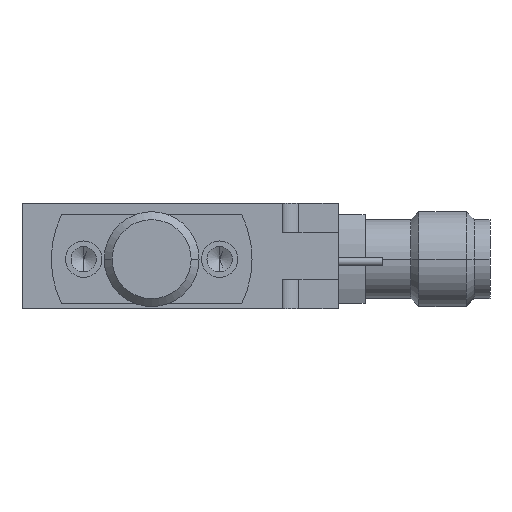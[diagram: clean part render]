
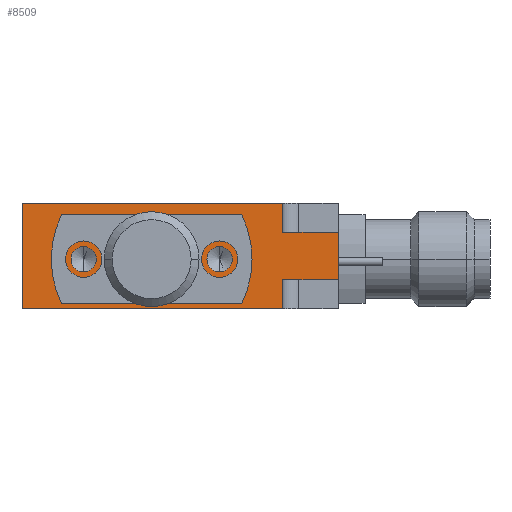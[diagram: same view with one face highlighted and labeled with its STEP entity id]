
A CAD part, left-side view. The second image highlights one B-rep face of the part: STEP entity #8509.
In plain terms, the highlighted planar face has unit normal (-1, 0, 0).
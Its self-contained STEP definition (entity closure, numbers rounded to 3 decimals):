
#60 = VERTEX_POINT ( 'NONE', #3979 ) ;
#96 = EDGE_CURVE ( 'NONE', #1969, #4391, #8861, .T. ) ;
#405 = DIRECTION ( 'NONE',  ( 0., 0., 1. ) ) ;
#490 = CARTESIAN_POINT ( 'NONE',  ( 0., -16.5, -1.85 ) ) ;
#645 = DIRECTION ( 'NONE',  ( -1., 0., 0. ) ) ;
#774 = DIRECTION ( 'NONE',  ( -1., 0., 0. ) ) ;
#792 = EDGE_CURVE ( 'NONE', #10537, #5094, #4758, .T. ) ;
#837 = DIRECTION ( 'NONE',  ( 0., 0., 1. ) ) ;
#908 = CARTESIAN_POINT ( 'NONE',  ( 0., 0., 0. ) ) ;
#951 = AXIS2_PLACEMENT_3D ( 'NONE', #11065, #774, #12374 ) ;
#963 = CARTESIAN_POINT ( 'NONE',  ( 0., 0., -6.7 ) ) ;
#988 = LINE ( 'NONE', #8053, #3393 ) ;
#1002 = DIRECTION ( 'NONE',  ( 0., -1., 0. ) ) ;
#1412 = CARTESIAN_POINT ( 'NONE',  ( 0., -8.2, -3.55 ) ) ;
#1438 = DIRECTION ( 'NONE',  ( 0., 0., -1. ) ) ;
#1552 = CARTESIAN_POINT ( 'NONE',  ( 0., -20., -4.85 ) ) ;
#1664 = DIRECTION ( 'NONE',  ( -1., 0., 0. ) ) ;
#1699 = VERTEX_POINT ( 'NONE', #9413 ) ;
#1776 = ORIENTED_EDGE ( 'NONE', *, *, #4135, .F. ) ;
#1969 = VERTEX_POINT ( 'NONE', #10610 ) ;
#2231 = CARTESIAN_POINT ( 'NONE',  ( 0., -16.5, -1.85 ) ) ;
#2382 = EDGE_CURVE ( 'NONE', #9850, #3500, #7077, .T. ) ;
#2602 = LINE ( 'NONE', #10646, #4905 ) ;
#2673 = DIRECTION ( 'NONE',  ( 0., -1., 0. ) ) ;
#2881 = CARTESIAN_POINT ( 'NONE',  ( 0., 0., 0. ) ) ;
#3393 = VECTOR ( 'NONE', #12720, 1000. ) ;
#3500 = VERTEX_POINT ( 'NONE', #9839 ) ;
#3532 = ORIENTED_EDGE ( 'NONE', *, *, #12215, .F. ) ;
#3553 = ORIENTED_EDGE ( 'NONE', *, *, #2382, .F. ) ;
#3625 = VECTOR ( 'NONE', #405, 1000. ) ;
#3729 = ORIENTED_EDGE ( 'NONE', *, *, #12885, .F. ) ;
#3795 = ORIENTED_EDGE ( 'NONE', *, *, #10452, .F. ) ;
#3979 = CARTESIAN_POINT ( 'NONE',  ( 0., -12.5, -2.75 ) ) ;
#4100 = AXIS2_PLACEMENT_3D ( 'NONE', #14816, #8081, #13820 ) ;
#4135 = EDGE_CURVE ( 'NONE', #3500, #9850, #11459, .T. ) ;
#4330 = CARTESIAN_POINT ( 'NONE',  ( 0., -12.5, -3.55 ) ) ;
#4341 = FACE_BOUND ( 'NONE', #5137, .T. ) ;
#4369 = EDGE_CURVE ( 'NONE', #10434, #1699, #7289, .T. ) ;
#4372 = VERTEX_POINT ( 'NONE', #2881 ) ;
#4391 = VERTEX_POINT ( 'NONE', #8623 ) ;
#4621 = ORIENTED_EDGE ( 'NONE', *, *, #13307, .F. ) ;
#4667 = ORIENTED_EDGE ( 'NONE', *, *, #792, .T. ) ;
#4750 = CARTESIAN_POINT ( 'NONE',  ( 0., -16.5, -4.85 ) ) ;
#4758 = LINE ( 'NONE', #11865, #8069 ) ;
#4905 = VECTOR ( 'NONE', #1438, 1000. ) ;
#5094 = VERTEX_POINT ( 'NONE', #9621 ) ;
#5137 = EDGE_LOOP ( 'NONE', ( #12626, #3795 ) ) ;
#5202 = FACE_BOUND ( 'NONE', #8734, .T. ) ;
#5206 = DIRECTION ( 'NONE',  ( 0., -1., 0. ) ) ;
#5496 = LINE ( 'NONE', #13950, #7392 ) ;
#5683 = AXIS2_PLACEMENT_3D ( 'NONE', #11420, #13869, #8126 ) ;
#5704 = ORIENTED_EDGE ( 'NONE', *, *, #7009, .F. ) ;
#6438 = DIRECTION ( 'NONE',  ( -1., 0., 0. ) ) ;
#6475 = ORIENTED_EDGE ( 'NONE', *, *, #6910, .T. ) ;
#6492 = VERTEX_POINT ( 'NONE', #10383 ) ;
#6885 = VECTOR ( 'NONE', #1002, 1000. ) ;
#6910 = EDGE_CURVE ( 'NONE', #10731, #9051, #7748, .T. ) ;
#7009 = EDGE_CURVE ( 'NONE', #10731, #11311, #988, .T. ) ;
#7077 = CIRCLE ( 'NONE', #4100, 0.8 ) ;
#7194 = ORIENTED_EDGE ( 'NONE', *, *, #11973, .F. ) ;
#7289 = CIRCLE ( 'NONE', #10488, 1.2 ) ;
#7392 = VECTOR ( 'NONE', #837, 1000. ) ;
#7713 = VECTOR ( 'NONE', #9258, 1000. ) ;
#7748 = LINE ( 'NONE', #10361, #11798 ) ;
#7779 = PLANE ( 'NONE',  #951 ) ;
#8053 = CARTESIAN_POINT ( 'NONE',  ( 0., -16.5, -4.85 ) ) ;
#8069 = VECTOR ( 'NONE', #2673, 1000. ) ;
#8081 = DIRECTION ( 'NONE',  ( -1., 0., 0. ) ) ;
#8110 = ORIENTED_EDGE ( 'NONE', *, *, #96, .T. ) ;
#8126 = DIRECTION ( 'NONE',  ( 0., -1., 0. ) ) ;
#8400 = CIRCLE ( 'NONE', #13050, 0.8 ) ;
#8509 = ADVANCED_FACE ( 'NONE', ( #5202, #14655, #4341, #12212 ), #7779, .T. ) ;
#8623 = CARTESIAN_POINT ( 'NONE',  ( 0., -16.5, 0. ) ) ;
#8734 = EDGE_LOOP ( 'NONE', ( #14812, #3729 ) ) ;
#8811 = EDGE_LOOP ( 'NONE', ( #3532, #5704, #6475, #4621, #8110, #14205, #7194, #4667 ) ) ;
#8841 = EDGE_CURVE ( 'NONE', #4372, #4391, #10216, .T. ) ;
#8861 = LINE ( 'NONE', #490, #3625 ) ;
#9019 = AXIS2_PLACEMENT_3D ( 'NONE', #13540, #645, #10334 ) ;
#9051 = VERTEX_POINT ( 'NONE', #10099 ) ;
#9258 = DIRECTION ( 'NONE',  ( 0., -1., 0. ) ) ;
#9413 = CARTESIAN_POINT ( 'NONE',  ( 0., -7., -3.55 ) ) ;
#9621 = CARTESIAN_POINT ( 'NONE',  ( 0., -16.5, -6.7 ) ) ;
#9639 = DIRECTION ( 'NONE',  ( -1., 0., 0. ) ) ;
#9839 = CARTESIAN_POINT ( 'NONE',  ( 0., -3.9, -4.35 ) ) ;
#9850 = VERTEX_POINT ( 'NONE', #11048 ) ;
#10045 = DIRECTION ( 'NONE',  ( 0., 0., 1. ) ) ;
#10099 = CARTESIAN_POINT ( 'NONE',  ( 0., -20., -1.85 ) ) ;
#10132 = CIRCLE ( 'NONE', #5683, 1.2 ) ;
#10216 = LINE ( 'NONE', #908, #6885 ) ;
#10334 = DIRECTION ( 'NONE',  ( 0., 0., 1. ) ) ;
#10361 = CARTESIAN_POINT ( 'NONE',  ( 0., -20., -6.7 ) ) ;
#10383 = CARTESIAN_POINT ( 'NONE',  ( 0., -12.5, -4.35 ) ) ;
#10434 = VERTEX_POINT ( 'NONE', #10642 ) ;
#10452 = EDGE_CURVE ( 'NONE', #6492, #60, #13306, .T. ) ;
#10488 = AXIS2_PLACEMENT_3D ( 'NONE', #1412, #9639, #5206 ) ;
#10537 = VERTEX_POINT ( 'NONE', #963 ) ;
#10610 = CARTESIAN_POINT ( 'NONE',  ( 0., -16.5, -1.85 ) ) ;
#10642 = CARTESIAN_POINT ( 'NONE',  ( 0., -9.4, -3.55 ) ) ;
#10646 = CARTESIAN_POINT ( 'NONE',  ( 0., -16.5, -4.85 ) ) ;
#10731 = VERTEX_POINT ( 'NONE', #1552 ) ;
#11048 = CARTESIAN_POINT ( 'NONE',  ( 0., -3.9, -2.75 ) ) ;
#11065 = CARTESIAN_POINT ( 'NONE',  ( 0., 0., -6.7 ) ) ;
#11311 = VERTEX_POINT ( 'NONE', #4750 ) ;
#11365 = DIRECTION ( 'NONE',  ( 0., 0., 1. ) ) ;
#11420 = CARTESIAN_POINT ( 'NONE',  ( 0., -8.2, -3.55 ) ) ;
#11459 = CIRCLE ( 'NONE', #9019, 0.8 ) ;
#11798 = VECTOR ( 'NONE', #10045, 1000. ) ;
#11865 = CARTESIAN_POINT ( 'NONE',  ( 0., 0., -6.7 ) ) ;
#11973 = EDGE_CURVE ( 'NONE', #10537, #4372, #5496, .T. ) ;
#12212 = FACE_OUTER_BOUND ( 'NONE', #8811, .T. ) ;
#12215 = EDGE_CURVE ( 'NONE', #11311, #5094, #2602, .T. ) ;
#12237 = CARTESIAN_POINT ( 'NONE',  ( 0., -12.5, -3.55 ) ) ;
#12374 = DIRECTION ( 'NONE',  ( 0., -1., 0. ) ) ;
#12466 = EDGE_CURVE ( 'NONE', #60, #6492, #8400, .T. ) ;
#12626 = ORIENTED_EDGE ( 'NONE', *, *, #12466, .F. ) ;
#12720 = DIRECTION ( 'NONE',  ( 0., 1., 0. ) ) ;
#12830 = AXIS2_PLACEMENT_3D ( 'NONE', #12237, #1664, #13616 ) ;
#12885 = EDGE_CURVE ( 'NONE', #1699, #10434, #10132, .T. ) ;
#13050 = AXIS2_PLACEMENT_3D ( 'NONE', #4330, #6438, #11365 ) ;
#13306 = CIRCLE ( 'NONE', #12830, 0.8 ) ;
#13307 = EDGE_CURVE ( 'NONE', #1969, #9051, #14919, .T. ) ;
#13311 = EDGE_LOOP ( 'NONE', ( #3553, #1776 ) ) ;
#13540 = CARTESIAN_POINT ( 'NONE',  ( 0., -3.9, -3.55 ) ) ;
#13616 = DIRECTION ( 'NONE',  ( 0., 0., 1. ) ) ;
#13820 = DIRECTION ( 'NONE',  ( 0., 0., 1. ) ) ;
#13869 = DIRECTION ( 'NONE',  ( -1., 0., 0. ) ) ;
#13950 = CARTESIAN_POINT ( 'NONE',  ( 0., 0., -6.7 ) ) ;
#14205 = ORIENTED_EDGE ( 'NONE', *, *, #8841, .F. ) ;
#14655 = FACE_BOUND ( 'NONE', #13311, .T. ) ;
#14812 = ORIENTED_EDGE ( 'NONE', *, *, #4369, .F. ) ;
#14816 = CARTESIAN_POINT ( 'NONE',  ( 0., -3.9, -3.55 ) ) ;
#14919 = LINE ( 'NONE', #2231, #7713 ) ;
